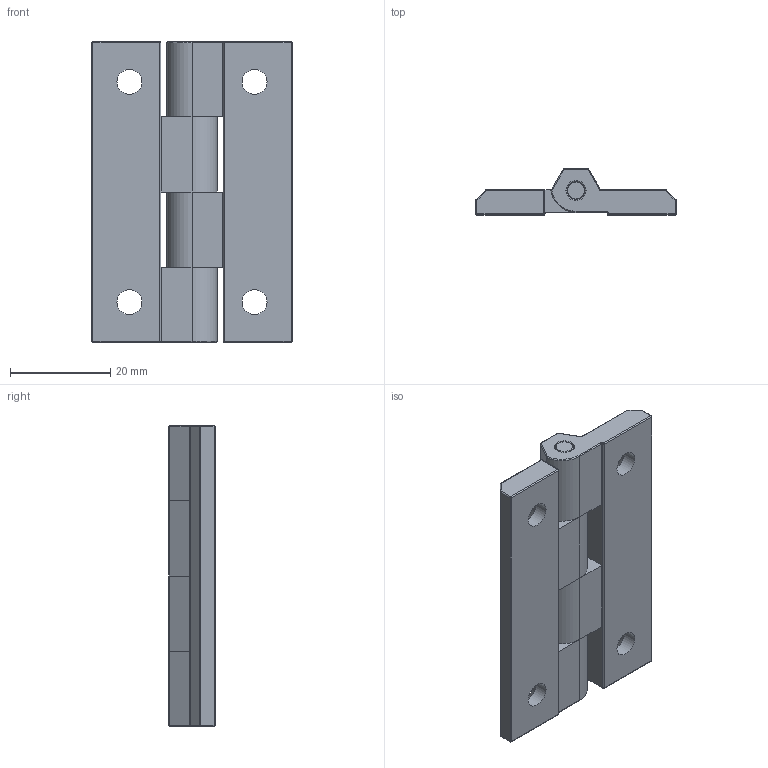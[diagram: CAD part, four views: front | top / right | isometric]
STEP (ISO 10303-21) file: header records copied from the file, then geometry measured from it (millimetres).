
FILE_DESCRIPTION(/* description */ (''),/* implementation_level */ '2;1');
FILE_NAME(/* name */ '\\NAS\db20\HC6040\DR_HC6040.stp',/* time_stamp */ '2017-08-23T13:59:19+09:00',/* author */ ('user'),/* organization */ (''),/* preprocessor_version */ 'ST-DEVELOPER v15.6',/* originating_system */ 'Autodesk Inventor 2015',/* authorisation */ '');
FILE_SCHEMA (('AUTOMOTIVE_DESIGN { 1 0 10303 214 3 1 1 }'));
Length unit declared in the file: millimetre
Products named in the file (3): DR_HC6040; DR_HC6040-1
Bounding box: 40 x 9.2 x 60 mm (x, y, z)
Volume: 12033.3 mm3; surface area: 8105.4 mm2
Topology: 3 solids, 3 shells, 149 faces, 343 edges, 200 vertices
Faces by surface type: cylinder 73, plane 38, sphere 24, torus 10, cone 4
Full cylindrical faces by diameter (mm): 3.6 x4, 3.671 x1, 5 x4
Entity records: 4153 total; most frequent: DIRECTION 792, CARTESIAN_POINT 672, ORIENTED_EDGE 644, EDGE_CURVE 322, AXIS2_PLACEMENT_3D 316, VERTEX_POINT 196, EDGE_LOOP 182, CIRCLE 162
